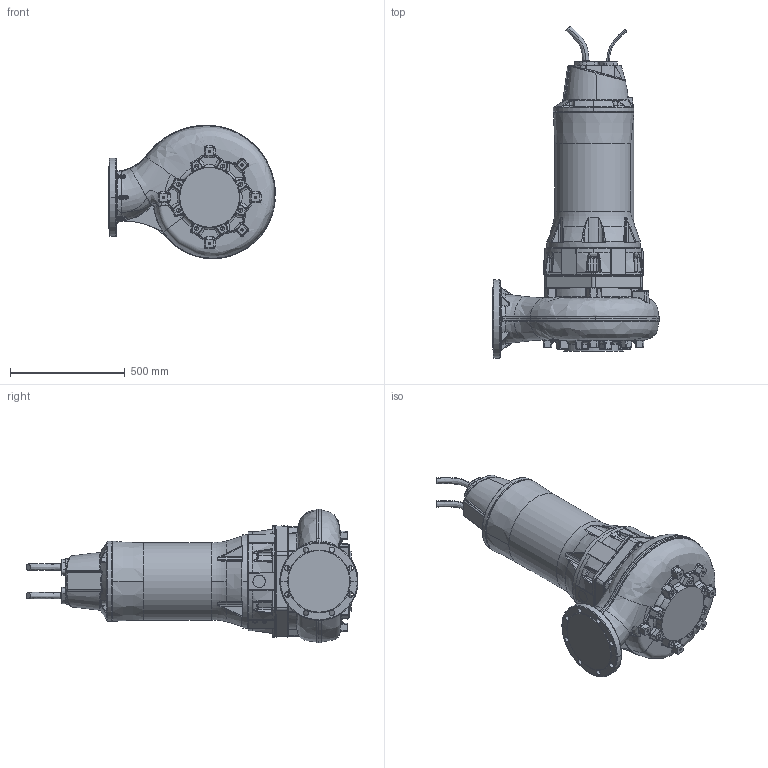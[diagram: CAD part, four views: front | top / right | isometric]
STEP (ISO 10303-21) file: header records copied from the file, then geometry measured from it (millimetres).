
FILE_DESCRIPTION (( 'STEP AP214' ), '1' );
FILE_NAME ('PE4_XFP200J-CH2_MOTOR OK_A_NG2.STEP', '2017-03-15T06:59:20', ( '' ), ( '' ), 'SwSTEP 2.0', 'SolidWorks 2017', '' );
FILE_SCHEMA (( 'AUTOMOTIVE_DESIGN' ));
Length unit declared in the file: millimetre
Products named in the file (1): PE4_XFP200J-CH2_MOTOR OK_A_NG2
Bounding box: 726.82 x 1445.58 x 580.77 mm (x, y, z)
Volume: 155566660.9 mm3; surface area: 2306866.7 mm2
Topology: 1 solids, 3 shells, 2002 faces, 4953 edges, 2888 vertices
Faces by surface type: bspline 808, cylinder 375, plane 342, cone 225, torus 214, sphere 38
Entity records: 147966 total; most frequent: CARTESIAN_POINT 85348, ORIENTED_EDGE 9700, DIRECTION 6969, EDGE_CURVE 4850, AXIS2_PLACEMENT_3D 2955, VERTEX_POINT 2888, EDGE_LOOP 2052, UNCERTAINTY_MEASURE_WITH_UNIT 2005
